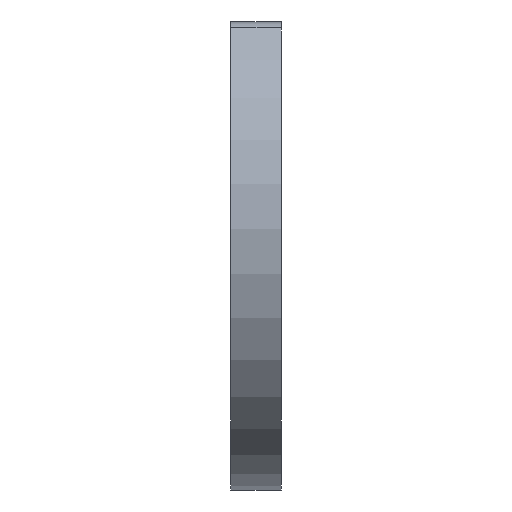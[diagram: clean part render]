
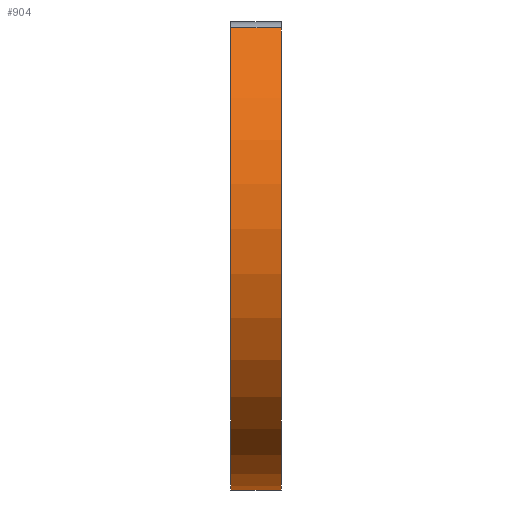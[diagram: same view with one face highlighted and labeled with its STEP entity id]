
A CAD part, left-side view. The second image highlights one B-rep face of the part: STEP entity #904.
In plain terms, the highlighted cylindrical face has radius 3.15 mm (diameter 6.3 mm), a partial arc.
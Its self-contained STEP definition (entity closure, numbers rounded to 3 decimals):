
#1 = ORIENTED_EDGE ( 'NONE', *, *, #615, .T. ) ;
#6 = CIRCLE ( 'NONE', #25, 3.15 ) ;
#10 = VERTEX_POINT ( 'NONE', #318 ) ;
#25 = AXIS2_PLACEMENT_3D ( 'NONE', #859, #76, #586 ) ;
#41 = CARTESIAN_POINT ( 'NONE',  ( 0., 0.3, 0. ) ) ;
#62 = CARTESIAN_POINT ( 'NONE',  ( 0., 0.3, 0. ) ) ;
#76 = DIRECTION ( 'NONE',  ( 0., 1., 0. ) ) ;
#115 = VECTOR ( 'NONE', #519, 1000. ) ;
#123 = DIRECTION ( 'NONE',  ( 0., -1., 0. ) ) ;
#209 = LINE ( 'NONE', #722, #829 ) ;
#257 = CARTESIAN_POINT ( 'NONE',  ( -2.048, 0.3, 2.394 ) ) ;
#307 = LINE ( 'NONE', #793, #115 ) ;
#318 = CARTESIAN_POINT ( 'NONE',  ( -2.048, -0.3, 2.394 ) ) ;
#363 = EDGE_CURVE ( 'NONE', #532, #890, #476, .T. ) ;
#376 = DIRECTION ( 'NONE',  ( 0., -1., 0. ) ) ;
#407 = DIRECTION ( 'NONE',  ( 0., 0., -1. ) ) ;
#424 = ORIENTED_EDGE ( 'NONE', *, *, #539, .T. ) ;
#446 = CARTESIAN_POINT ( 'NONE',  ( 0., 0.3, -3.15 ) ) ;
#476 = CIRCLE ( 'NONE', #811, 3.15 ) ;
#481 = DIRECTION ( 'NONE',  ( 0., 1., 0. ) ) ;
#510 = EDGE_CURVE ( 'NONE', #852, #10, #6, .T. ) ;
#519 = DIRECTION ( 'NONE',  ( 0., 1., 0. ) ) ;
#527 = FACE_OUTER_BOUND ( 'NONE', #659, .T. ) ;
#532 = VERTEX_POINT ( 'NONE', #446 ) ;
#539 = EDGE_CURVE ( 'NONE', #532, #852, #209, .T. ) ;
#565 = DIRECTION ( 'NONE',  ( 0., 0., 1. ) ) ;
#586 = DIRECTION ( 'NONE',  ( 0., 0., 1. ) ) ;
#594 = ORIENTED_EDGE ( 'NONE', *, *, #363, .F. ) ;
#615 = EDGE_CURVE ( 'NONE', #10, #890, #307, .T. ) ;
#659 = EDGE_LOOP ( 'NONE', ( #594, #424, #806, #1 ) ) ;
#677 = CYLINDRICAL_SURFACE ( 'NONE', #687, 3.15 ) ;
#687 = AXIS2_PLACEMENT_3D ( 'NONE', #41, #123, #407 ) ;
#722 = CARTESIAN_POINT ( 'NONE',  ( 0., 0.3, -3.15 ) ) ;
#747 = CARTESIAN_POINT ( 'NONE',  ( 0., -0.3, -3.15 ) ) ;
#793 = CARTESIAN_POINT ( 'NONE',  ( -2.048, 0.3, 2.394 ) ) ;
#806 = ORIENTED_EDGE ( 'NONE', *, *, #510, .T. ) ;
#811 = AXIS2_PLACEMENT_3D ( 'NONE', #62, #481, #565 ) ;
#829 = VECTOR ( 'NONE', #376, 1000. ) ;
#852 = VERTEX_POINT ( 'NONE', #747 ) ;
#859 = CARTESIAN_POINT ( 'NONE',  ( 0., -0.3, 0. ) ) ;
#890 = VERTEX_POINT ( 'NONE', #257 ) ;
#904 = ADVANCED_FACE ( 'NONE', ( #527 ), #677, .T. ) ;
